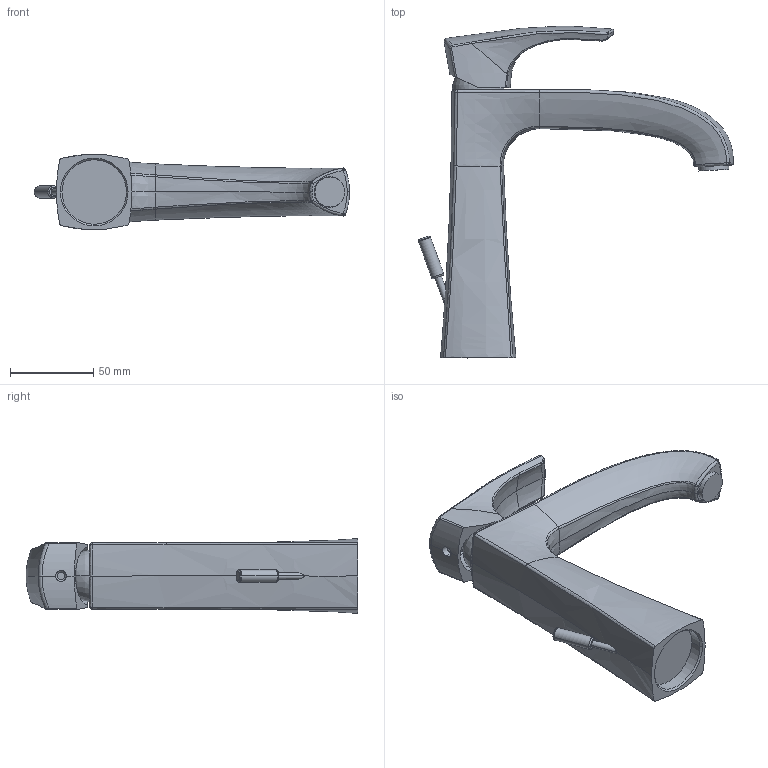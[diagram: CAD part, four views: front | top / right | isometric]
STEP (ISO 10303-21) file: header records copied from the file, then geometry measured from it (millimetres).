
FILE_DESCRIPTION(('CoCreate Modeling STEP Export'),'2;1');
FILE_NAME('LADY.211.stp','2012-06-04T 9:25:22',(''),(''),'CoCreate Modeling STEP processor for AP214 (Solid Model)','CoCreate Modeling 17.0 01-Apr-2010 (C) Parametric Technology GmbH','');
FILE_SCHEMA(('AUTOMOTIVE_DESIGN { 1 0 10303 214 1 1 1 1 }'));
Products named in the file (1): p2
Bounding box: 189.23 x 199.29 x 44.83 mm (x, y, z)
Volume: 306134.5 mm3; surface area: 60112.6 mm2
Topology: 1 solids, 4 shells, 224 faces, 513 edges, 290 vertices
Faces by surface type: bspline 118, cylinder 43, plane 28, torus 19, cone 12, revolution 4
Entity records: 37936 total; most frequent: CARTESIAN_POINT 33856, ORIENTED_EDGE 1000, DIRECTION 573, EDGE_CURVE 500, VERTEX_POINT 290, EDGE_LOOP 234, AXIS2_PLACEMENT_3D 229, FACE_OUTER_BOUND 224
